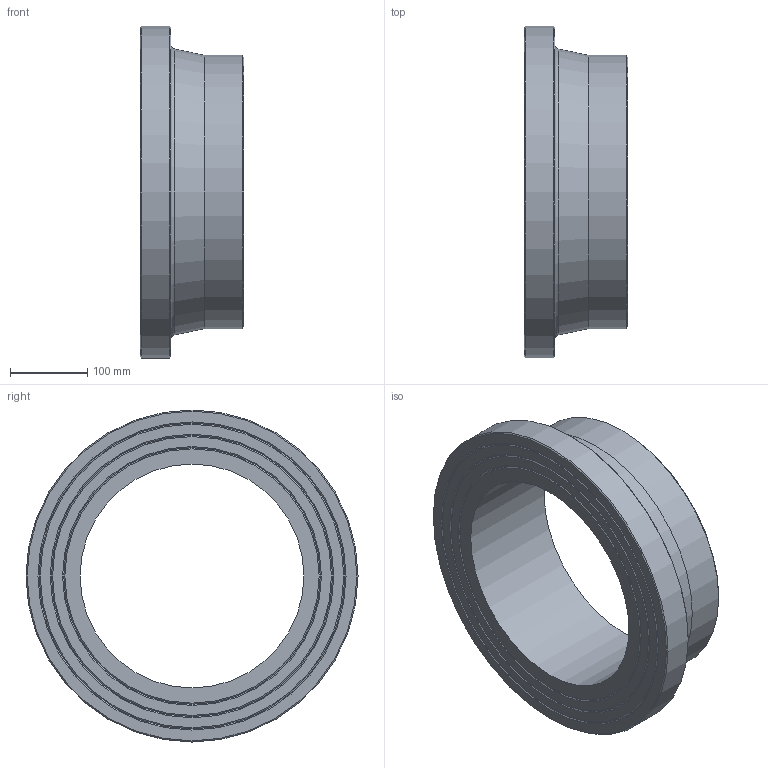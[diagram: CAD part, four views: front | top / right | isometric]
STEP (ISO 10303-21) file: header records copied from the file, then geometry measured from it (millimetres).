
FILE_DESCRIPTION(/* description */ ('Unknown'),/* implementation_level */ '2;1');
FILE_NAME(/* name */ 'CCP355C',/* time_stamp */ '2022-04-04T15:16:56+02:00',/* author */ ('Unknown'),/* organization */ ('Unknown'),/* preprocessor_version */ 'ST-DEVELOPER v18.1',/* originating_system */ 'Solid Edge',/* authorisation */ 'Unknown');
FILE_SCHEMA (('INTEGRATED_CNC_SCHEMA','AUTOMOTIVE_DESIGN {1 0 10303 214 3 1 1}'));
Length unit declared in the file: millimetre
Products named in the file (1): CCP355C
Bounding box: 135 x 431 x 431 mm (x, y, z)
Volume: 6502930.1 mm3; surface area: 431105.9 mm2
Topology: 1 solids, 1 shells, 20 faces, 35 edges, 21 vertices
Faces by surface type: cone 10, plane 6, cylinder 3, torus 1
Full cylindrical faces by diameter (mm): 290.6 x1, 355 x1, 431 x1
Entity records: 438 total; most frequent: DIRECTION 82, CARTESIAN_POINT 61, AXIS2_PLACEMENT_3D 41, ORIENTED_EDGE 40, EDGE_LOOP 40, FACE_BOUND 40, EDGE_CURVE 20, VERTEX_POINT 20
